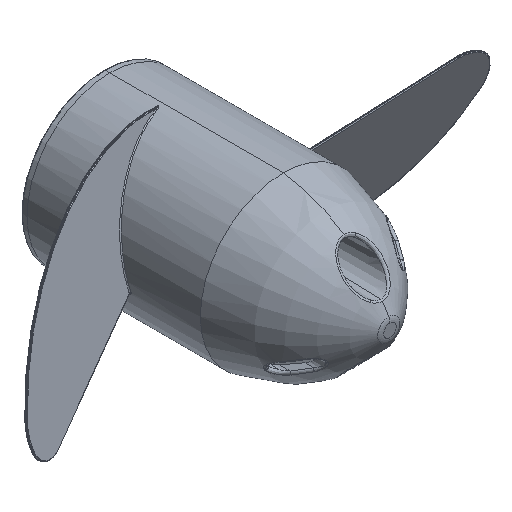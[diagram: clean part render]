
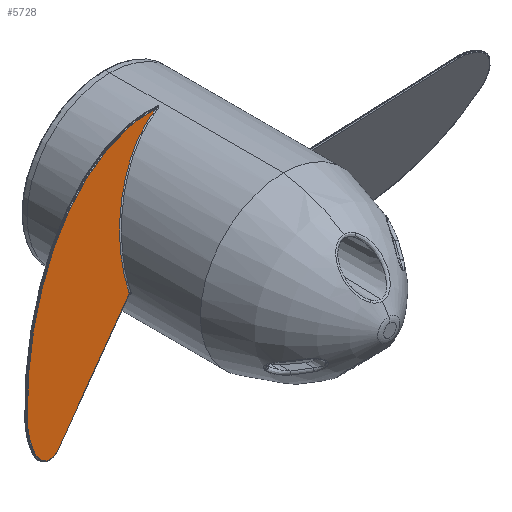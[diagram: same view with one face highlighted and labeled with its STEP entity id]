
A CAD part, isometric view. The second image highlights one B-rep face of the part: STEP entity #5728.
In plain terms, the highlighted planar face has unit normal (0.25, -0.933, 0.259).
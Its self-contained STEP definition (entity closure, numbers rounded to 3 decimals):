
#738 = EDGE_CURVE ( 'NONE', #3202, #7912, #2742, .T. ) ;
#1149 = EDGE_CURVE ( 'NONE', #6813, #3202, #17899, .T. ) ;
#1202 = CIRCLE ( 'NONE', #12263, 9.865 ) ;
#1465 = CIRCLE ( 'NONE', #19429, 4.889 ) ;
#1471 = AXIS2_PLACEMENT_3D ( 'NONE', #15536, #7748, #4966 ) ;
#1679 = DIRECTION ( 'NONE',  ( 0.25, -0.933, 0.259 ) ) ;
#2258 = CARTESIAN_POINT ( 'NONE',  ( -19.652, -6.577, -3.76 ) ) ;
#2742 = CIRCLE ( 'NONE', #9395, 47.881 ) ;
#2932 = CARTESIAN_POINT ( 'NONE',  ( -21.989, -3.776, 8.593 ) ) ;
#3010 = CARTESIAN_POINT ( 'NONE',  ( -10.2, 2.859, 21.127 ) ) ;
#3080 = DIRECTION ( 'NONE',  ( 0., 0.267, 0.964 ) ) ;
#3202 = VERTEX_POINT ( 'NONE', #3010 ) ;
#3369 = CARTESIAN_POINT ( 'NONE',  ( -45.104, -15.397, -10.971 ) ) ;
#3505 = CARTESIAN_POINT ( 'NONE',  ( -1.912, 4.716, 19.811 ) ) ;
#4019 = EDGE_CURVE ( 'NONE', #9625, #9548, #1465, .T. ) ;
#4493 = LINE ( 'NONE', #10734, #12198 ) ;
#4966 = DIRECTION ( 'NONE',  ( 0., 0.267, 0.964 ) ) ;
#5309 = EDGE_CURVE ( 'NONE', #7912, #9625, #1202, .T. ) ;
#5728 = ADVANCED_FACE ( 'NONE', ( #18490 ), #6350, .F. ) ;
#5865 = EDGE_CURVE ( 'NONE', #9490, #6813, #17913, .T. ) ;
#6349 = ORIENTED_EDGE ( 'NONE', *, *, #5309, .T. ) ;
#6350 = PLANE ( 'NONE',  #1471 ) ;
#6563 = ORIENTED_EDGE ( 'NONE', *, *, #1149, .T. ) ;
#6813 = VERTEX_POINT ( 'NONE', #3505 ) ;
#7748 = DIRECTION ( 'NONE',  ( -0.25, 0.933, -0.259 ) ) ;
#7912 = VERTEX_POINT ( 'NONE', #18984 ) ;
#9145 = DIRECTION ( 'NONE',  ( 0.857, 0.338, 0.39 ) ) ;
#9163 = CARTESIAN_POINT ( 'NONE',  ( -14.429, 1.036, 18.638 ) ) ;
#9395 = AXIS2_PLACEMENT_3D ( 'NONE', #16975, #12835, #18846 ) ;
#9490 = VERTEX_POINT ( 'NONE', #2258 ) ;
#9548 = VERTEX_POINT ( 'NONE', #15707 ) ;
#9625 = VERTEX_POINT ( 'NONE', #14988 ) ;
#10113 = DIRECTION ( 'NONE',  ( 0.25, -0.933, 0.259 ) ) ;
#10307 = DIRECTION ( 'NONE',  ( 0., 0.267, 0.964 ) ) ;
#10734 = CARTESIAN_POINT ( 'NONE',  ( -1.252, 0.678, 4.62 ) ) ;
#10841 = CARTESIAN_POINT ( 'NONE',  ( -19.652, -6.577, -3.76 ) ) ;
#11781 = CARTESIAN_POINT ( 'NONE',  ( -10.2, -9.939, -25.012 ) ) ;
#11888 = CARTESIAN_POINT ( 'NONE',  ( -49.69, -16.945, -12.124 ) ) ;
#11938 = CARTESIAN_POINT ( 'NONE',  ( -1.912, 4.716, 19.811 ) ) ;
#12198 = VECTOR ( 'NONE', #9145, 1000. ) ;
#12263 = AXIS2_PLACEMENT_3D ( 'NONE', #3369, #1679, #3080 ) ;
#12485 = EDGE_CURVE ( 'NONE', #9548, #9490, #4493, .T. ) ;
#12835 = DIRECTION ( 'NONE',  ( 0.25, -0.933, 0.259 ) ) ;
#14743 = DIRECTION ( 'NONE',  ( 0., 0.267, 0.964 ) ) ;
#14988 = CARTESIAN_POINT ( 'NONE',  ( -54.196, -18.467, -13.257 ) ) ;
#15154 = ORIENTED_EDGE ( 'NONE', *, *, #12485, .T. ) ;
#15293 = ORIENTED_EDGE ( 'NONE', *, *, #4019, .T. ) ;
#15536 = CARTESIAN_POINT ( 'NONE',  ( 2.031, -0.225, -1.806 ) ) ;
#15656 = ORIENTED_EDGE ( 'NONE', *, *, #738, .T. ) ;
#15707 = CARTESIAN_POINT ( 'NONE',  ( -47.734, -17.649, -16.55 ) ) ;
#16975 = CARTESIAN_POINT ( 'NONE',  ( -10.2, -9.939, -25.012 ) ) ;
#17273 = ORIENTED_EDGE ( 'NONE', *, *, #5865, .T. ) ;
#17786 = DIRECTION ( 'NONE',  ( 0.25, -0.933, 0.259 ) ) ;
#17899 = CIRCLE ( 'NONE', #19488, 47.881 ) ;
#17913 =( BOUNDED_CURVE ( )  B_SPLINE_CURVE ( 3, ( #10841, #2932, #9163, #11938 ),
 .UNSPECIFIED., .F., .F. ) 
 B_SPLINE_CURVE_WITH_KNOTS ( ( 4, 4 ),
 ( 3.757, 5.422 ),
 .UNSPECIFIED. ) 
 CURVE ( )  GEOMETRIC_REPRESENTATION_ITEM ( )  RATIONAL_B_SPLINE_CURVE ( ( 1., 0.782, 0.782, 1. ) ) 
 REPRESENTATION_ITEM ( '' )  );
#18490 = FACE_OUTER_BOUND ( 'NONE', #19241, .T. ) ;
#18846 = DIRECTION ( 'NONE',  ( 0., 0.267, 0.964 ) ) ;
#18984 = CARTESIAN_POINT ( 'NONE',  ( -54.161, -16.813, -7.327 ) ) ;
#19241 = EDGE_LOOP ( 'NONE', ( #15154, #17273, #6563, #15656, #6349, #15293 ) ) ;
#19429 = AXIS2_PLACEMENT_3D ( 'NONE', #11888, #10113, #10307 ) ;
#19488 = AXIS2_PLACEMENT_3D ( 'NONE', #11781, #17786, #14743 ) ;
